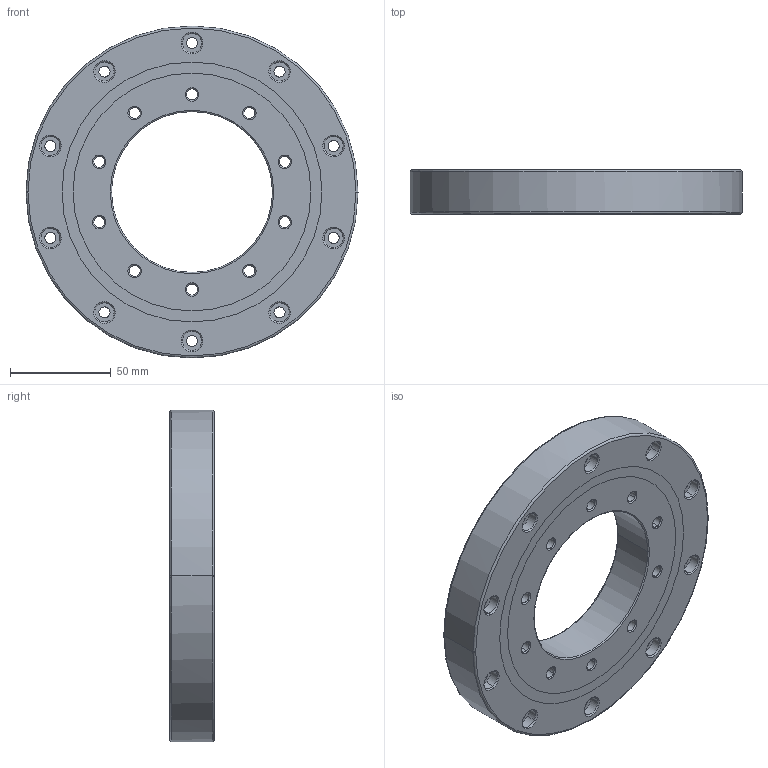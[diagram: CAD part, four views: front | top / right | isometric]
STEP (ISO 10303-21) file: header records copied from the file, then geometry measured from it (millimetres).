
FILE_DESCRIPTION(('no description'),'unknown implementation level');
FILE_NAME('CRBE08022C_56.stp',' ',('HIWIN GmbH'),('CADClick - KiM GmbH - www.kimweb.de'),'unknown preprocess','ACIS','unknown authorization');
FILE_SCHEMA(('automotive_design'));
Length unit declared in the file: millimetre
Products named in the file (4): CRBE08022C_1; CRBE08022C_2; CRBE08022C_3; CRBE08022C
Bounding box: 165 x 22 x 165 mm (x, y, z)
Volume: 301524.1 mm3; surface area: 79582.2 mm2
Topology: 4 solids, 4 shells, 300 faces, 728 edges, 456 vertices
Faces by surface type: cone 160, cylinder 96, plane 28, torus 16
Entity records: 17449 total; most frequent: DIRECTION 1808, STYLED_ITEM 1488, PRESENTATION_STYLE_ASSIGNMENT 1488, CARTESIAN_POINT 1488, COLOUR_RGB 1488, ORIENTED_EDGE 1456, AXIS2_PLACEMENT_3D 776, EDGE_CURVE 728
